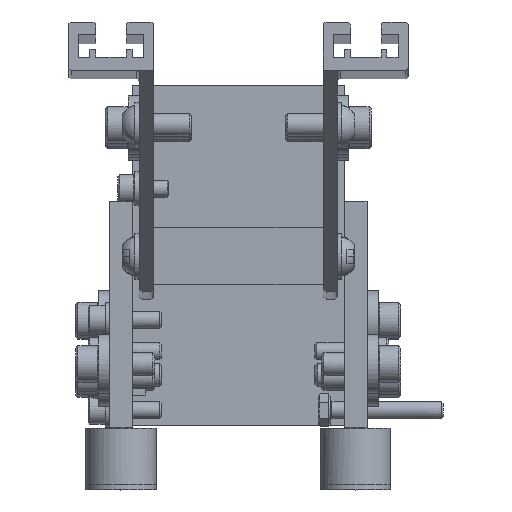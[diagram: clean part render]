
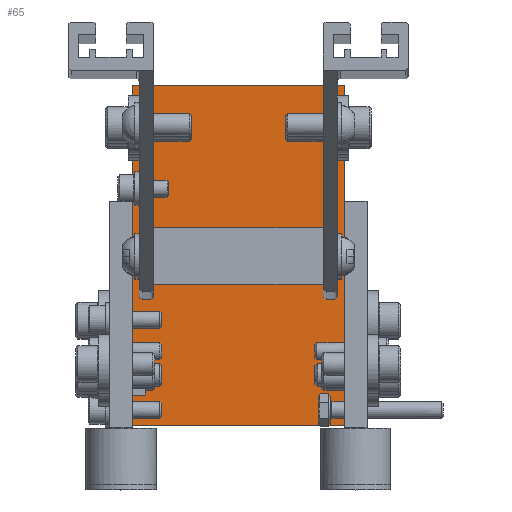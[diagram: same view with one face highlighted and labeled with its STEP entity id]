
A CAD part, top view. The second image highlights one B-rep face of the part: STEP entity #65.
In plain terms, the highlighted planar face has unit normal (0, 0, 1).
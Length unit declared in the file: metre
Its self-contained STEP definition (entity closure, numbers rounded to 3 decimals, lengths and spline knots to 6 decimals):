
#65 = ADVANCED_FACE( 'NONE', ( #596 ), #597, .T. );
#596 = FACE_OUTER_BOUND( '', #1912, .T. );
#597 = PLANE( '', #1913 );
#1912 = EDGE_LOOP( '', ( #3454, #3455, #3456, #3457, #3458, #3459, #3460, #3461, #3462, #3463 ) );
#1913 = AXIS2_PLACEMENT_3D( '', #3464, #3465, #3466 );
#3454 = ORIENTED_EDGE( '', *, *, #6583, .F. );
#3455 = ORIENTED_EDGE( '', *, *, #6584, .T. );
#3456 = ORIENTED_EDGE( '', *, *, #6585, .T. );
#3457 = ORIENTED_EDGE( '', *, *, #6586, .T. );
#3458 = ORIENTED_EDGE( '', *, *, #6587, .F. );
#3459 = ORIENTED_EDGE( '', *, *, #6588, .T. );
#3460 = ORIENTED_EDGE( '', *, *, #6589, .T. );
#3461 = ORIENTED_EDGE( '', *, *, #6590, .F. );
#3462 = ORIENTED_EDGE( '', *, *, #6591, .F. );
#3463 = ORIENTED_EDGE( '', *, *, #6592, .F. );
#3464 = CARTESIAN_POINT( '', ( 0.0375, -0.0195, -1.73 ) );
#3465 = DIRECTION( '', ( 0., 0., 1. ) );
#3466 = DIRECTION( '', ( 1., 0., 0. ) );
#6583 = EDGE_CURVE( 'NONE', #7478, #7479, #7480, .T. );
#6584 = EDGE_CURVE( 'NONE', #7478, #7481, #7482, .T. );
#6585 = EDGE_CURVE( 'NONE', #7481, #7483, #7484, .T. );
#6586 = EDGE_CURVE( 'NONE', #7483, #7485, #7486, .T. );
#6587 = EDGE_CURVE( 'NONE', #7487, #7485, #7488, .T. );
#6588 = EDGE_CURVE( 'NONE', #7487, #7489, #7490, .T. );
#6589 = EDGE_CURVE( 'NONE', #7489, #7491, #7492, .T. );
#6590 = EDGE_CURVE( 'NONE', #7493, #7491, #7494, .T. );
#6591 = EDGE_CURVE( 'NONE', #7495, #7493, #7496, .T. );
#6592 = EDGE_CURVE( 'NONE', #7479, #7495, #7497, .T. );
#7478 = VERTEX_POINT( 'NONE', #9120 );
#7479 = VERTEX_POINT( 'NONE', #9121 );
#7480 = LINE( '', #9122, #9123 );
#7481 = VERTEX_POINT( 'NONE', #9124 );
#7482 = LINE( '', #9125, #9126 );
#7483 = VERTEX_POINT( 'NONE', #9127 );
#7484 = LINE( '', #9128, #9129 );
#7485 = VERTEX_POINT( 'NONE', #9130 );
#7486 = LINE( '', #9131, #9132 );
#7487 = VERTEX_POINT( 'NONE', #9133 );
#7488 = LINE( '', #9134, #9135 );
#7489 = VERTEX_POINT( 'NONE', #9136 );
#7490 = LINE( '', #9137, #9138 );
#7491 = VERTEX_POINT( 'NONE', #9139 );
#7492 = LINE( '', #9140, #9141 );
#7493 = VERTEX_POINT( 'NONE', #9142 );
#7494 = LINE( '', #9143, #9144 );
#7495 = VERTEX_POINT( 'NONE', #9145 );
#7496 = LINE( '', #9146, #9147 );
#7497 = LINE( '', #9148, #9149 );
#9120 = CARTESIAN_POINT( '', ( 0.0375, -0.1395, -1.73 ) );
#9121 = CARTESIAN_POINT( '', ( -0.0375, -0.1395, -1.73 ) );
#9122 = CARTESIAN_POINT( '', ( 0.0375, -0.1395, -1.73 ) );
#9123 = VECTOR( '', #11289, 1. );
#9124 = CARTESIAN_POINT( '', ( 0.0375, -0.10675, -1.73 ) );
#9125 = CARTESIAN_POINT( '', ( 0.0375, -0.0625, -1.73 ) );
#9126 = VECTOR( '', #11290, 1. );
#9127 = CARTESIAN_POINT( '', ( 0.0375, -0.09825, -1.73 ) );
#9128 = CARTESIAN_POINT( '', ( 0.0375, -0.0195, -1.73 ) );
#9129 = VECTOR( '', #11291, 1. );
#9130 = CARTESIAN_POINT( '', ( 0.0375, -0.0625, -1.73 ) );
#9131 = CARTESIAN_POINT( '', ( 0.0375, -0.0625, -1.73 ) );
#9132 = VECTOR( '', #11292, 1. );
#9133 = CARTESIAN_POINT( '', ( 0.0375, -0.0195, -1.73 ) );
#9134 = CARTESIAN_POINT( '', ( 0.0375, -0.0195, -1.73 ) );
#9135 = VECTOR( '', #11293, 1. );
#9136 = CARTESIAN_POINT( '', ( -0.0375, -0.0195, -1.73 ) );
#9137 = CARTESIAN_POINT( '', ( 0.0375, -0.0195, -1.73 ) );
#9138 = VECTOR( '', #11294, 1. );
#9139 = CARTESIAN_POINT( '', ( -0.0375, -0.0625, -1.73 ) );
#9140 = CARTESIAN_POINT( '', ( -0.0375, -0.0195, -1.73 ) );
#9141 = VECTOR( '', #11295, 1. );
#9142 = CARTESIAN_POINT( '', ( -0.0375, -0.09825, -1.73 ) );
#9143 = CARTESIAN_POINT( '', ( -0.0375, -0.0625, -1.73 ) );
#9144 = VECTOR( '', #11296, 1. );
#9145 = CARTESIAN_POINT( '', ( -0.0375, -0.10675, -1.73 ) );
#9146 = CARTESIAN_POINT( '', ( -0.0375, -0.0195, -1.73 ) );
#9147 = VECTOR( '', #11297, 1. );
#9148 = CARTESIAN_POINT( '', ( -0.0375, -0.0625, -1.73 ) );
#9149 = VECTOR( '', #11298, 1. );
#11289 = DIRECTION( '', ( -1., 0., 0. ) );
#11290 = DIRECTION( '', ( 0., 1., 0. ) );
#11291 = DIRECTION( '', ( 0., 1., 0. ) );
#11292 = DIRECTION( '', ( 0., 1., 0. ) );
#11293 = DIRECTION( '', ( 0., -1., 0. ) );
#11294 = DIRECTION( '', ( -1., 0., 0. ) );
#11295 = DIRECTION( '', ( 0., -1., 0. ) );
#11296 = DIRECTION( '', ( 0., 1., 0. ) );
#11297 = DIRECTION( '', ( 0., 1., 0. ) );
#11298 = DIRECTION( '', ( 0., 1., 0. ) );
